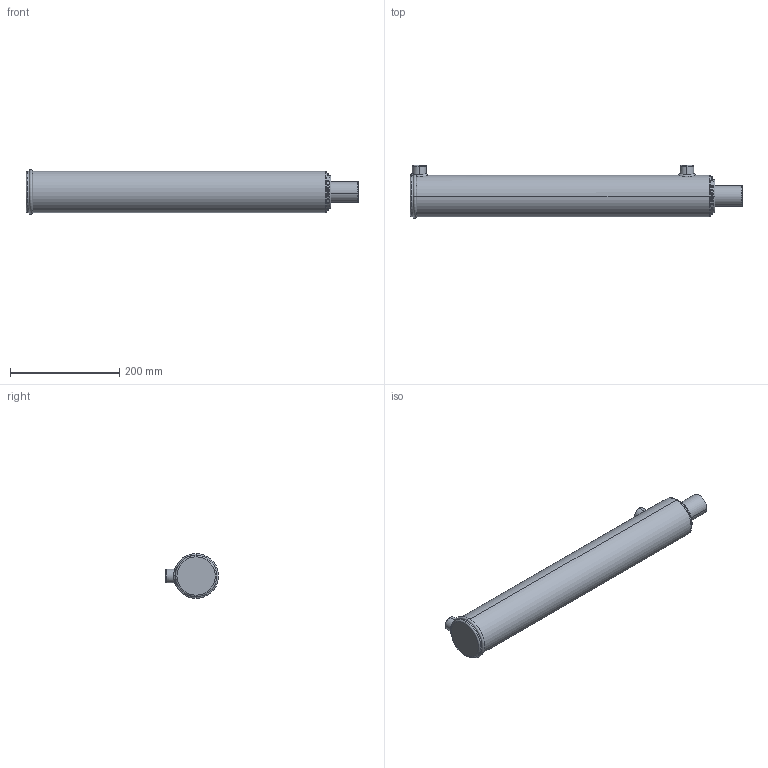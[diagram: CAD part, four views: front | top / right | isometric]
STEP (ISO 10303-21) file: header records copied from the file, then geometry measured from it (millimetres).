
FILE_DESCRIPTION (( 'STEP AP203' ), '1' );
FILE_NAME ('BL250150x457 (18).STEP', '2014-11-25T01:43:48', ( '' ), ( '' ), 'SwSTEP 2.0', 'SolidWorks 2014', '' );
FILE_SCHEMA (( 'CONFIG_CONTROL_DESIGN' ));
Length unit declared in the file: millimetre
Products named in the file (3): BL body 2.5_2.5x18; BL250150x457 (18); Spare_2.5x18
Assembly tree (2 placements, depth 2):
  BL250150x457 (18)
    BL body 2.5_2.5x18
    Spare_2.5x18
Bounding box: 608 x 97.2 x 82.2 mm (x, y, z)
Volume: 2892784.2 mm3; surface area: 246505.2 mm2
Topology: 2 solids, 2 shells, 88 faces, 205 edges, 126 vertices
Faces by surface type: cylinder 32, plane 20, torus 18, bspline 10, cone 8
Entity records: 5772 total; most frequent: CARTESIAN_POINT 3521, DIRECTION 422, ORIENTED_EDGE 402, EDGE_CURVE 201, AXIS2_PLACEMENT_3D 182, VERTEX_POINT 126, EDGE_LOOP 101, CIRCLE 99
